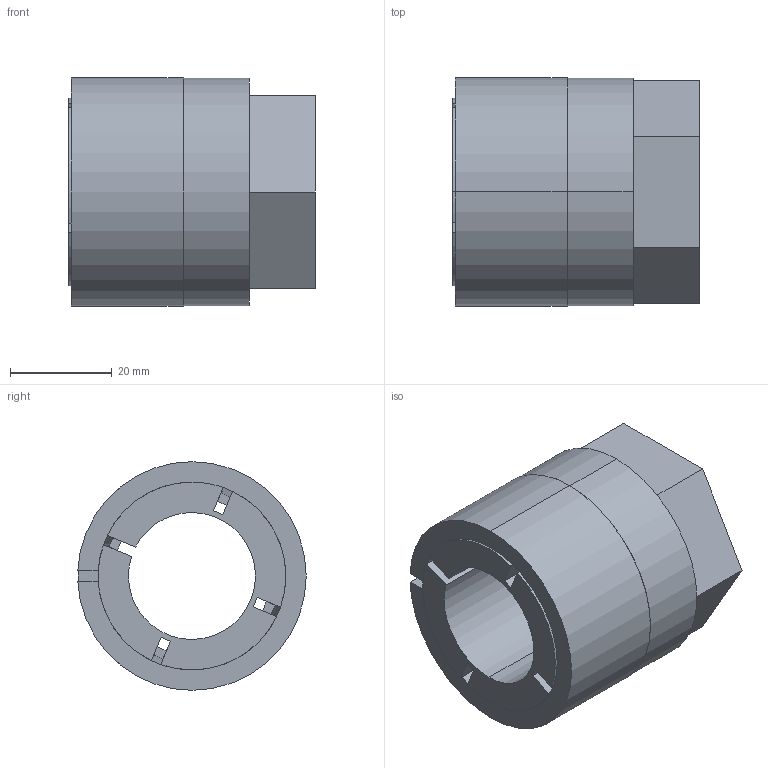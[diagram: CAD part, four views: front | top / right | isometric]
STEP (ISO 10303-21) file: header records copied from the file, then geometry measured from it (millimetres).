
FILE_DESCRIPTION (( 'STEP AP203' ), '1' );
FILE_NAME ('KBS 56 - 25 x 45.STEP', '2015-07-07T20:22:16', ( '' ), ( '' ), 'SwSTEP 2.0', 'SolidWorks 2010', '' );
FILE_SCHEMA (( 'CONFIG_CONTROL_DESIGN' ));
Length unit declared in the file: millimetre
Products named in the file (1): KBS 56 - 25 x 45
Bounding box: 48.5 x 44.98 x 45 mm (x, y, z)
Volume: 46699.6 mm3; surface area: 25393.2 mm2
Topology: 3 solids, 3 shells, 53 faces, 138 edges, 92 vertices
Faces by surface type: plane 30, cylinder 15, cone 8
Entity records: 1731 total; most frequent: CARTESIAN_POINT 320, DIRECTION 282, ORIENTED_EDGE 276, EDGE_CURVE 138, AXIS2_PLACEMENT_3D 100, VERTEX_POINT 92, VECTOR 82, LINE 82
